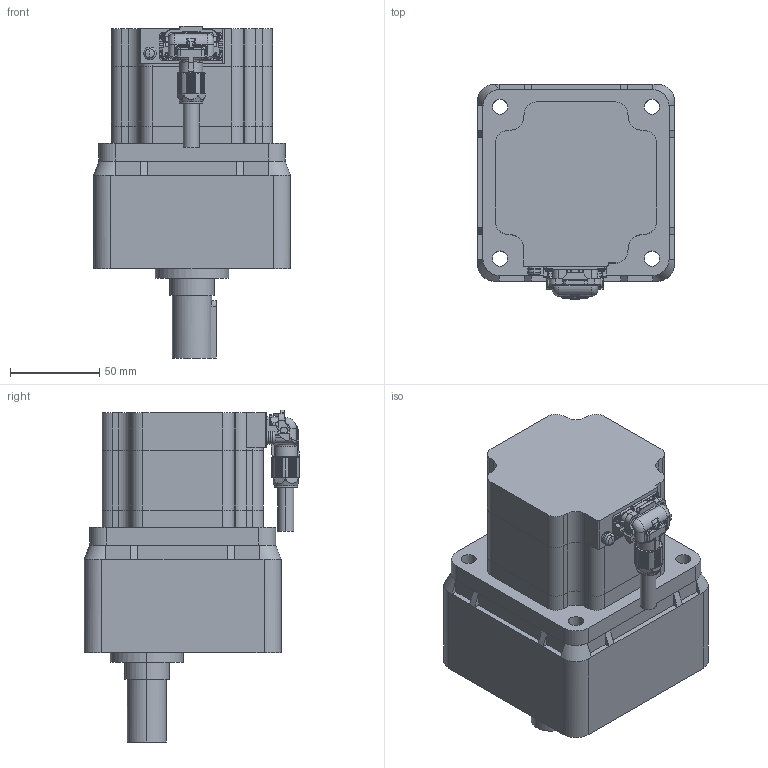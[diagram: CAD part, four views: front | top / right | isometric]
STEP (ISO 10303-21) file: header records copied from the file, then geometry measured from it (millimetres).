
FILE_DESCRIPTION (( 'STEP AP203' ), '1' );
FILE_NAME ('A1473A.STEP', '2015-09-10T09:35:48', ( 'om' ), ( 'Hewlett-Packard Company' ), 'SwSTEP 2.0', 'SolidWorks 2014', '' );
FILE_SCHEMA (( 'CONFIG_CONTROL_DESIGN' ));
Length unit declared in the file: millimetre
Products named in the file (1): A1473A
Bounding box: 110 x 120.5 x 185.5 mm (x, y, z)
Volume: 1307604.3 mm3; surface area: 117755 mm2
Topology: 3 solids, 10 shells, 1150 faces, 2995 edges, 1879 vertices
Faces by surface type: plane 599, cylinder 406, bspline 71, torus 44, cone 26, sphere 4
Entity records: 43959 total; most frequent: CARTESIAN_POINT 16720, ORIENTED_EDGE 5962, DIRECTION 5233, EDGE_CURVE 2981, VERTEX_POINT 1879, AXIS2_PLACEMENT_3D 1757, VECTOR 1719, LINE 1719
